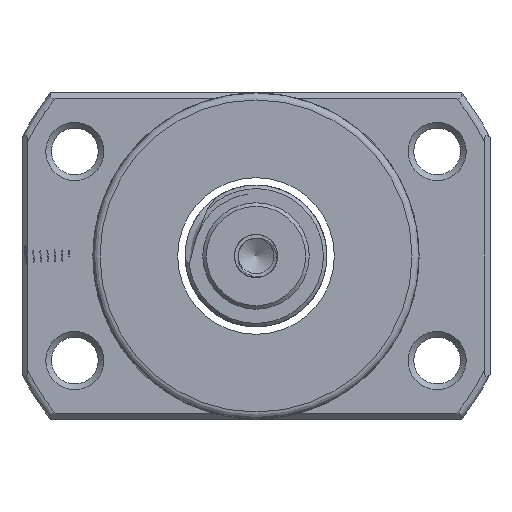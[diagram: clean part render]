
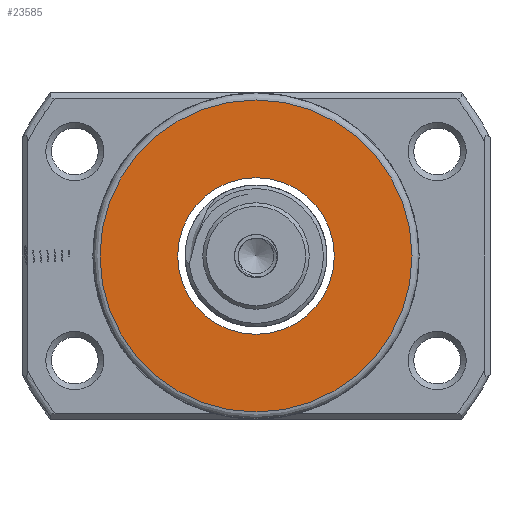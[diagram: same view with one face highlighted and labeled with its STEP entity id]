
A CAD part, left-side view. The second image highlights one B-rep face of the part: STEP entity #23585.
In plain terms, the highlighted planar face has unit normal (-1, 0, 0).
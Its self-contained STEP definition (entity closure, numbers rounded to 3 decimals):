
#2985 = DIRECTION ( 'NONE',  ( -1., 0., 0. ) ) ;
#3768 = EDGE_LOOP ( 'NONE', ( #4958 ) ) ;
#4958 = ORIENTED_EDGE ( 'NONE', *, *, #6030, .F. ) ;
#6030 = EDGE_CURVE ( 'NONE', #23900, #23900, #20152, .T. ) ;
#6107 = AXIS2_PLACEMENT_3D ( 'NONE', #21223, #23427, #14034 ) ;
#7709 = PLANE ( 'NONE',  #6107 ) ;
#7740 = CARTESIAN_POINT ( 'NONE',  ( -53.324, 0., 0. ) ) ;
#8915 = VERTEX_POINT ( 'NONE', #11112 ) ;
#10062 = FACE_OUTER_BOUND ( 'NONE', #14053, .T. ) ;
#10197 = DIRECTION ( 'NONE',  ( -1., 0., 0. ) ) ;
#11112 = CARTESIAN_POINT ( 'NONE',  ( -53.324, 0., 22. ) ) ;
#12363 = ORIENTED_EDGE ( 'NONE', *, *, #13947, .T. ) ;
#12436 = CARTESIAN_POINT ( 'NONE',  ( -53.324, 0., 11.05 ) ) ;
#13947 = EDGE_CURVE ( 'NONE', #8915, #8915, #18746, .T. ) ;
#14034 = DIRECTION ( 'NONE',  ( 0., 0., 1. ) ) ;
#14053 = EDGE_LOOP ( 'NONE', ( #12363 ) ) ;
#16140 = DIRECTION ( 'NONE',  ( 0., 0., 1. ) ) ;
#17244 = DIRECTION ( 'NONE',  ( 0., 0., 1. ) ) ;
#18746 = CIRCLE ( 'NONE', #28176, 22. ) ;
#20152 = CIRCLE ( 'NONE', #22500, 11.05 ) ;
#20932 = FACE_BOUND ( 'NONE', #3768, .T. ) ;
#21223 = CARTESIAN_POINT ( 'NONE',  ( -53.324, 11.05, 0. ) ) ;
#22500 = AXIS2_PLACEMENT_3D ( 'NONE', #28447, #10197, #17244 ) ;
#23427 = DIRECTION ( 'NONE',  ( -1., 0., 0. ) ) ;
#23585 = ADVANCED_FACE ( 'NONE', ( #10062, #20932 ), #7709, .T. ) ;
#23900 = VERTEX_POINT ( 'NONE', #12436 ) ;
#28176 = AXIS2_PLACEMENT_3D ( 'NONE', #7740, #2985, #16140 ) ;
#28447 = CARTESIAN_POINT ( 'NONE',  ( -53.324, 0., 0. ) ) ;
